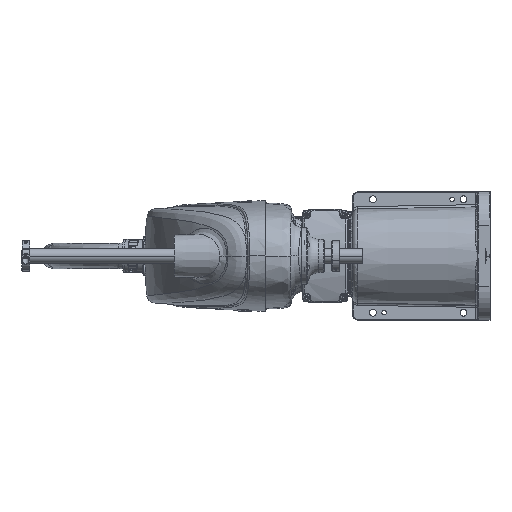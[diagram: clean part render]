
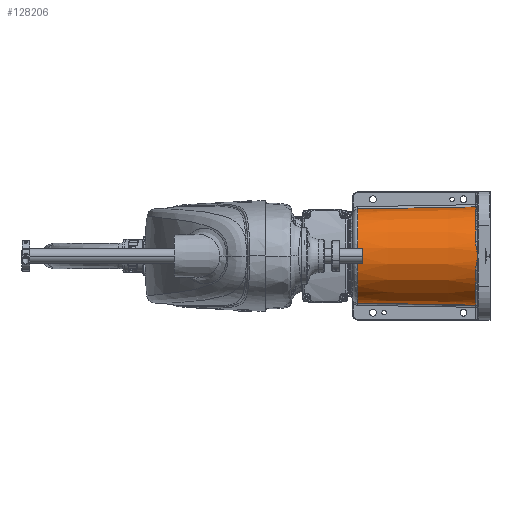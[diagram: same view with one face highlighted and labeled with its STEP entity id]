
A CAD part, left-side view. The second image highlights one B-rep face of the part: STEP entity #128206.
In plain terms, the highlighted conical face has half-angle 1 degrees and reference radius 65 mm.
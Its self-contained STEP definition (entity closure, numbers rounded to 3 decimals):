
#3247 = CARTESIAN_POINT ( 'NONE',  ( -64.866, 16.869, -4.002 ) ) ;
#7237 = DIRECTION ( 'NONE',  ( 0., -1., 0. ) ) ;
#7789 = CARTESIAN_POINT ( 'NONE',  ( -65., 16.009, -0.012 ) ) ;
#8146 = LINE ( 'NONE', #104979, #145615 ) ;
#8492 = CONICAL_SURFACE ( 'NONE', #129078, 65., 0.017 ) ;
#9626 = CIRCLE ( 'NONE', #106609, 64.949 ) ;
#11539 = LINE ( 'NONE', #126335, #33019 ) ;
#11620 = AXIS2_PLACEMENT_3D ( 'NONE', #61906, #127486, #87329 ) ;
#16618 = CARTESIAN_POINT ( 'NONE',  ( -65., 16.008, -0.037 ) ) ;
#17018 = ORIENTED_EDGE ( 'NONE', *, *, #18618, .T. ) ;
#18618 = EDGE_CURVE ( 'NONE', #63549, #101008, #21271, .T. ) ;
#20232 = VERTEX_POINT ( 'NONE', #83355 ) ;
#21271 = B_SPLINE_CURVE_WITH_KNOTS ( 'NONE', 3,
 ( #31083, #66416, #154199, #142721, #155812, #103327, #143542, #3247, #43363, #93420, #105767, #90203, #81138, #30269, #40922 ),
 .UNSPECIFIED., .F., .F.,
 ( 4, 2, 2, 2, 2, 1, 2, 4 ),
 ( 0., 0.005, 0.01, 0.015, 0.017, 0.018, 0.019, 0.019 ),
 .UNSPECIFIED. ) ;
#22601 = B_SPLINE_CURVE_WITH_KNOTS ( 'NONE', 3,
 ( #34797, #7789, #45502, #133306 ),
 .UNSPECIFIED., .F., .F.,
 ( 4, 4 ),
 ( 0., 0. ),
 .UNSPECIFIED. ) ;
#22669 = CARTESIAN_POINT ( 'NONE',  ( -64.739, 17.402, 6.389 ) ) ;
#30269 = CARTESIAN_POINT ( 'NONE',  ( -64.999, 16.051, -0.234 ) ) ;
#31083 = CARTESIAN_POINT ( 'NONE',  ( -62.131, 18.948, -18.924 ) ) ;
#33019 = VECTOR ( 'NONE', #37709, 1000. ) ;
#33790 = EDGE_CURVE ( 'NONE', #120232, #146308, #48272, .T. ) ;
#33807 = ORIENTED_EDGE ( 'NONE', *, *, #87619, .T. ) ;
#34797 = CARTESIAN_POINT ( 'NONE',  ( -65., 16.008, -0.037 ) ) ;
#37709 = DIRECTION ( 'NONE',  ( 0., -1., -0.017 ) ) ;
#40196 = VERTEX_POINT ( 'NONE', #65094 ) ;
#40803 = DIRECTION ( 'NONE',  ( 1., 0., 0. ) ) ;
#40922 = CARTESIAN_POINT ( 'NONE',  ( -65., 16.008, -0.037 ) ) ;
#43363 = CARTESIAN_POINT ( 'NONE',  ( -64.913, 16.7, -3.209 ) ) ;
#44808 = CARTESIAN_POINT ( 'NONE',  ( -64.024, 18.231, 11.107 ) ) ;
#45125 = EDGE_CURVE ( 'NONE', #101008, #103785, #22601, .T. ) ;
#45502 = CARTESIAN_POINT ( 'NONE',  ( -65., 16.009, 0.012 ) ) ;
#45635 = CARTESIAN_POINT ( 'NONE',  ( -64.986, 16.705, 3.209 ) ) ;
#48272 = CIRCLE ( 'NONE', #11620, 64.949 ) ;
#57554 = CIRCLE ( 'NONE', #81193, 62.223 ) ;
#59598 = CARTESIAN_POINT ( 'NONE',  ( -65., 16.008, 0.037 ) ) ;
#61906 = CARTESIAN_POINT ( 'NONE',  ( 0., 18.948, 0. ) ) ;
#63549 = VERTEX_POINT ( 'NONE', #79827 ) ;
#65094 = CARTESIAN_POINT ( 'NONE',  ( 0., 18.948, -64.949 ) ) ;
#66416 = CARTESIAN_POINT ( 'NONE',  ( -62.607, 18.948, -17.36 ) ) ;
#68270 = DIRECTION ( 'NONE',  ( -1., 0., 0. ) ) ;
#69692 = DIRECTION ( 'NONE',  ( 0., -1., 0.017 ) ) ;
#77591 = EDGE_LOOP ( 'NONE', ( #17018, #104627, #91943, #97327, #137782, #100486, #33807, #139227 ) ) ;
#79827 = CARTESIAN_POINT ( 'NONE',  ( -62.131, 18.948, -18.924 ) ) ;
#81138 = CARTESIAN_POINT ( 'NONE',  ( -64.997, 16.095, -0.434 ) ) ;
#81193 = AXIS2_PLACEMENT_3D ( 'NONE', #131930, #7237, #140437 ) ;
#82563 = CARTESIAN_POINT ( 'NONE',  ( -62.607, 18.948, 17.36 ) ) ;
#83355 = CARTESIAN_POINT ( 'NONE',  ( 0., 175.122, 62.223 ) ) ;
#83564 = CARTESIAN_POINT ( 'NONE',  ( 0., 18.948, 64.949 ) ) ;
#84193 = CARTESIAN_POINT ( 'NONE',  ( -63.02, 18.829, 15.8 ) ) ;
#87329 = DIRECTION ( 'NONE',  ( -1., 0., 0. ) ) ;
#87619 = EDGE_CURVE ( 'NONE', #135558, #40196, #11539, .T. ) ;
#87669 = DIRECTION ( 'NONE',  ( 0., -1., 0. ) ) ;
#88487 = FACE_OUTER_BOUND ( 'NONE', #77591, .T. ) ;
#89204 = EDGE_CURVE ( 'NONE', #20232, #146308, #8146, .T. ) ;
#90203 = CARTESIAN_POINT ( 'NONE',  ( -64.992, 16.182, -0.83 ) ) ;
#90361 = EDGE_CURVE ( 'NONE', #40196, #63549, #9626, .T. ) ;
#91559 = CARTESIAN_POINT ( 'NONE',  ( -62.131, 18.948, 18.924 ) ) ;
#91943 = ORIENTED_EDGE ( 'NONE', *, *, #159580, .T. ) ;
#92863 = DIRECTION ( 'NONE',  ( 0., 1., 0. ) ) ;
#93420 = CARTESIAN_POINT ( 'NONE',  ( -64.962, 16.442, -2.02 ) ) ;
#94876 = CARTESIAN_POINT ( 'NONE',  ( -63.729, 18.472, 12.673 ) ) ;
#97327 = ORIENTED_EDGE ( 'NONE', *, *, #33790, .T. ) ;
#100486 = ORIENTED_EDGE ( 'NONE', *, *, #152422, .T. ) ;
#101008 = VERTEX_POINT ( 'NONE', #16618 ) ;
#103327 = CARTESIAN_POINT ( 'NONE',  ( -64.501, 17.678, -7.961 ) ) ;
#103576 = CARTESIAN_POINT ( 'NONE',  ( 0., 18.948, 0. ) ) ;
#103785 = VERTEX_POINT ( 'NONE', #150431 ) ;
#104627 = ORIENTED_EDGE ( 'NONE', *, *, #45125, .T. ) ;
#104979 = CARTESIAN_POINT ( 'NONE',  ( 0., 16., 65. ) ) ;
#105767 = CARTESIAN_POINT ( 'NONE',  ( -64.981, 16.313, -1.425 ) ) ;
#106609 = AXIS2_PLACEMENT_3D ( 'NONE', #103576, #92863, #68270 ) ;
#120232 = VERTEX_POINT ( 'NONE', #91559 ) ;
#126335 = CARTESIAN_POINT ( 'NONE',  ( 0., 16., -65. ) ) ;
#127486 = DIRECTION ( 'NONE',  ( 0., 1., 0. ) ) ;
#128206 = ADVANCED_FACE ( 'NONE', ( #88487 ), #8492, .T. ) ;
#129078 = AXIS2_PLACEMENT_3D ( 'NONE', #150040, #87669, #40803 ) ;
#131930 = CARTESIAN_POINT ( 'NONE',  ( 0., 175.122, 0. ) ) ;
#133306 = CARTESIAN_POINT ( 'NONE',  ( -65., 16.008, 0.037 ) ) ;
#135058 = CARTESIAN_POINT ( 'NONE',  ( -62.131, 18.948, 18.924 ) ) ;
#135558 = VERTEX_POINT ( 'NONE', #146868 ) ;
#137782 = ORIENTED_EDGE ( 'NONE', *, *, #89204, .F. ) ;
#139227 = ORIENTED_EDGE ( 'NONE', *, *, #90361, .T. ) ;
#140437 = DIRECTION ( 'NONE',  ( -1., 0., 0. ) ) ;
#142721 = CARTESIAN_POINT ( 'NONE',  ( -63.729, 18.472, -12.673 ) ) ;
#143542 = CARTESIAN_POINT ( 'NONE',  ( -64.682, 17.365, -6.381 ) ) ;
#145615 = VECTOR ( 'NONE', #69692, 1000. ) ;
#146308 = VERTEX_POINT ( 'NONE', #83564 ) ;
#146868 = CARTESIAN_POINT ( 'NONE',  ( 0., 175.122, -62.223 ) ) ;
#150040 = CARTESIAN_POINT ( 'NONE',  ( 0., 16., 0. ) ) ;
#150431 = CARTESIAN_POINT ( 'NONE',  ( -65., 16.008, 0.037 ) ) ;
#152422 = EDGE_CURVE ( 'NONE', #20232, #135558, #57554, .T. ) ;
#152555 = B_SPLINE_CURVE_WITH_KNOTS ( 'NONE', 3,
 ( #59598, #45635, #22669, #44808, #94876, #84193, #82563, #135058 ),
 .UNSPECIFIED., .F., .F.,
 ( 4, 2, 2, 4 ),
 ( 0., 0.01, 0.015, 0.019 ),
 .UNSPECIFIED. ) ;
#154199 = CARTESIAN_POINT ( 'NONE',  ( -63.02, 18.829, -15.8 ) ) ;
#155812 = CARTESIAN_POINT ( 'NONE',  ( -64.024, 18.231, -11.107 ) ) ;
#159580 = EDGE_CURVE ( 'NONE', #103785, #120232, #152555, .T. ) ;
